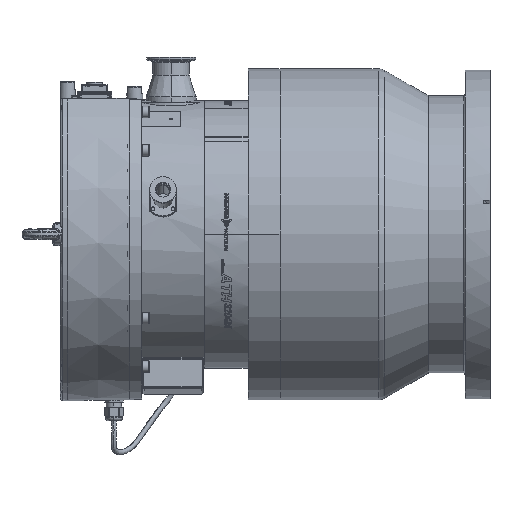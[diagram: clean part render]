
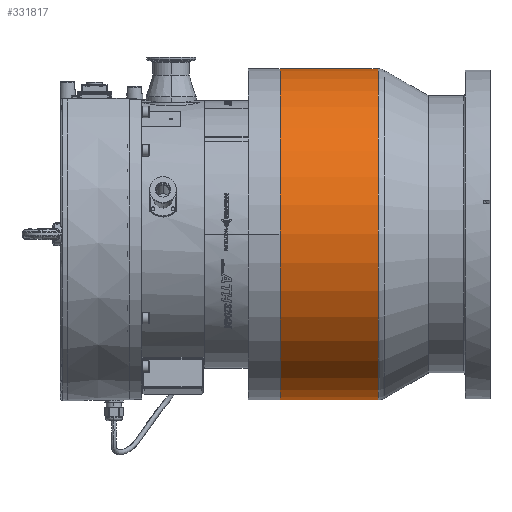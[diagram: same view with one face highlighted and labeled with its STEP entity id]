
A CAD part, top view. The second image highlights one B-rep face of the part: STEP entity #331817.
In plain terms, the highlighted cylindrical face has radius 185.5 mm (diameter 371 mm), a partial arc.
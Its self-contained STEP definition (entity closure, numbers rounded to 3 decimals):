
#330173=CARTESIAN_POINT('',(295.866,0.,0.));
#330174=DIRECTION('',(-1.,0.,0.));
#330175=DIRECTION('',(0.,-1.,0.));
#330176=AXIS2_PLACEMENT_3D('',#330173,#330174,#330175);
#330193=DIRECTION('',(1.,0.,0.));
#330194=VECTOR('',#330193,109.586);
#330195=CARTESIAN_POINT('',(186.28,-185.5,0.));
#330196=LINE('',#330195,#330194);
#330197=DIRECTION('',(1.,0.,0.));
#330198=VECTOR('',#330197,109.586);
#330199=CARTESIAN_POINT('',(186.28,185.5,0.));
#330200=LINE('',#330199,#330198);
#330206=CARTESIAN_POINT('',(186.28,0.,0.));
#330207=DIRECTION('',(-1.,0.,0.));
#330208=DIRECTION('',(0.,-1.,0.));
#330209=AXIS2_PLACEMENT_3D('',#330206,#330207,#330208);
#331081=CARTESIAN_POINT('',(186.28,-185.5,0.));
#331082=CARTESIAN_POINT('',(295.866,-185.5,0.));
#331083=VERTEX_POINT('',#331081);
#331084=VERTEX_POINT('',#331082);
#331113=CARTESIAN_POINT('',(186.28,185.5,0.));
#331114=CARTESIAN_POINT('',(295.866,185.5,0.));
#331115=VERTEX_POINT('',#331113);
#331116=VERTEX_POINT('',#331114);
#331805=CARTESIAN_POINT('',(433.03,0.,0.));
#331806=DIRECTION('',(-1.,0.,0.));
#331807=DIRECTION('',(0.,1.,0.));
#331808=AXIS2_PLACEMENT_3D('',#331805,#331806,#331807);
#331809=CYLINDRICAL_SURFACE('',#331808,185.5);
#331810=ORIENTED_EDGE('',*,*,#331795,.F.);
#331812=ORIENTED_EDGE('',*,*,#331811,.T.);
#331813=ORIENTED_EDGE('',*,*,#331798,.T.);
#331814=ORIENTED_EDGE('',*,*,#331769,.F.);
#331815=EDGE_LOOP('',(#331810,#331812,#331813,#331814));
#331816=FACE_OUTER_BOUND('',#331815,.F.);
#331817=ADVANCED_FACE('',(#331816),#331809,.T.);
#330177=CIRCLE('',#330176,185.5);
#330210=CIRCLE('',#330209,185.5);
#331769=EDGE_CURVE('',#331084,#331116,#330177,.T.);
#331795=EDGE_CURVE('',#331083,#331084,#330196,.T.);
#331798=EDGE_CURVE('',#331115,#331116,#330200,.T.);
#331811=EDGE_CURVE('',#331083,#331115,#330210,.T.);
